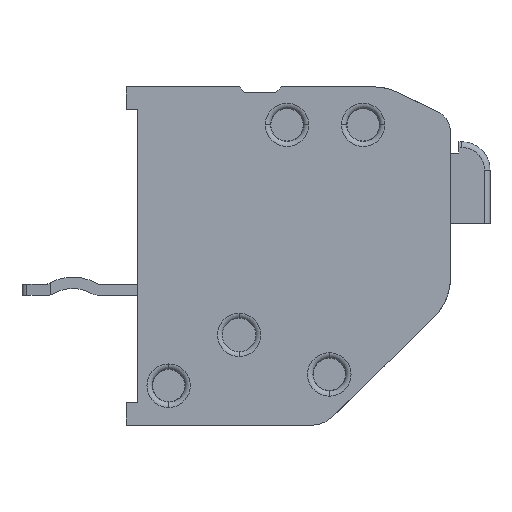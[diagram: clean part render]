
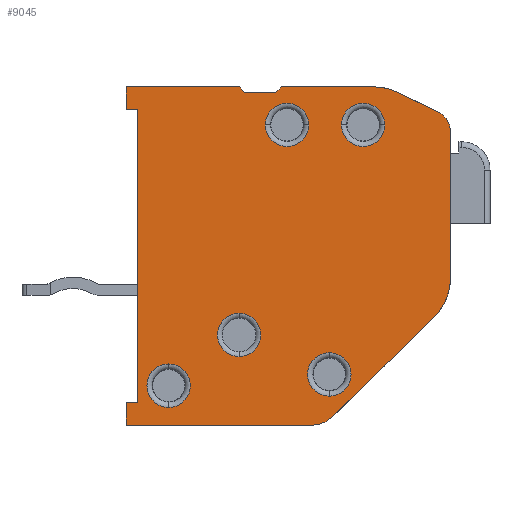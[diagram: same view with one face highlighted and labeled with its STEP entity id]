
A CAD part, front view. The second image highlights one B-rep face of the part: STEP entity #9045.
In plain terms, the highlighted planar face has unit normal (0, -1, 0).
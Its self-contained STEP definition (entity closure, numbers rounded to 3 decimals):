
#83=DIRECTION('',(0.,0.,-1.));
#84=VECTOR('',#83,5.154);
#85=CARTESIAN_POINT('',(11.5,0.,-1.604));
#86=LINE('',#85,#84);
#155=DIRECTION('',(1.,0.,0.));
#156=VECTOR('',#155,3.292);
#157=CARTESIAN_POINT('',(5.5,0.,0.));
#158=LINE('',#157,#156);
#171=DIRECTION('',(1.,0.,0.));
#172=VECTOR('',#171,1.1);
#173=CARTESIAN_POINT('',(4.2,0.,-0.2));
#174=LINE('',#173,#172);
#195=DIRECTION('',(1.,0.,0.));
#196=VECTOR('',#195,4.);
#197=CARTESIAN_POINT('',(0.,0.,0.));
#198=LINE('',#197,#196);
#359=DIRECTION('',(0.,0.,1.));
#360=VECTOR('',#359,10.4);
#361=CARTESIAN_POINT('',(0.4,0.,-11.2));
#362=LINE('',#361,#360);
#2117=DIRECTION('',(-1.,0.,0.));
#2118=VECTOR('',#2117,6.592);
#2119=CARTESIAN_POINT('',(6.592,0.,-12.));
#2120=LINE('',#2119,#2118);
#2142=DIRECTION('',(0.715,0.,0.699));
#2143=VECTOR('',#2142,5.044);
#2144=CARTESIAN_POINT('',(7.291,0.,-11.715));
#2145=LINE('',#2144,#2143);
#2146=CARTESIAN_POINT('',(6.592,0.,-11.));
#2147=DIRECTION('',(0.,-1.,0.));
#2148=DIRECTION('',(0.,0.,-1.));
#2149=AXIS2_PLACEMENT_3D('',#2146,#2147,#2148);
#2151=DIRECTION('',(-0.707,0.,0.707));
#2152=VECTOR('',#2151,0.283);
#2153=CARTESIAN_POINT('',(4.2,0.,-0.2));
#2154=LINE('',#2153,#2152);
#2155=DIRECTION('',(-0.707,0.,-0.707));
#2156=VECTOR('',#2155,0.283);
#2157=CARTESIAN_POINT('',(5.5,0.,0.));
#2158=LINE('',#2157,#2156);
#2159=CARTESIAN_POINT('',(8.792,0.,-1.8));
#2160=DIRECTION('',(0.,-1.,0.));
#2161=DIRECTION('',(0.431,0.,0.902));
#2162=AXIS2_PLACEMENT_3D('',#2159,#2160,#2161);
#2164=DIRECTION('',(-0.902,0.,0.431));
#2165=VECTOR('',#2164,1.637);
#2166=CARTESIAN_POINT('',(11.045,0.,-0.882));
#2167=LINE('',#2166,#2165);
#2168=CARTESIAN_POINT('',(10.7,0.,-1.604));
#2169=DIRECTION('',(0.,-1.,0.));
#2170=DIRECTION('',(1.,0.,0.));
#2171=AXIS2_PLACEMENT_3D('',#2168,#2169,#2170);
#2173=CARTESIAN_POINT('',(9.5,0.,-6.758));
#2174=DIRECTION('',(0.,-1.,0.));
#2175=DIRECTION('',(0.699,0.,-0.715));
#2176=AXIS2_PLACEMENT_3D('',#2173,#2174,#2175);
#2188=CARTESIAN_POINT('',(7.2,0.,-10.2));
#2189=DIRECTION('',(0.,1.,0.));
#2190=DIRECTION('',(0.,0.,-1.));
#2191=AXIS2_PLACEMENT_3D('',#2188,#2189,#2190);
#2211=CARTESIAN_POINT('',(7.2,0.,-10.2));
#2212=DIRECTION('',(0.,1.,0.));
#2213=DIRECTION('',(0.,0.,1.));
#2214=AXIS2_PLACEMENT_3D('',#2211,#2212,#2213);
#2231=CARTESIAN_POINT('',(1.5,0.,-10.6));
#2232=DIRECTION('',(0.,1.,0.));
#2233=DIRECTION('',(0.,0.,1.));
#2234=AXIS2_PLACEMENT_3D('',#2231,#2232,#2233);
#2254=CARTESIAN_POINT('',(1.5,0.,-10.6));
#2255=DIRECTION('',(0.,1.,0.));
#2256=DIRECTION('',(0.,0.,-1.));
#2257=AXIS2_PLACEMENT_3D('',#2254,#2255,#2256);
#2279=CARTESIAN_POINT('',(4.,0.,-8.8));
#2280=DIRECTION('',(0.,1.,0.));
#2281=DIRECTION('',(0.,0.,1.));
#2282=AXIS2_PLACEMENT_3D('',#2279,#2280,#2281);
#2294=CARTESIAN_POINT('',(4.,0.,-8.8));
#2295=DIRECTION('',(0.,1.,0.));
#2296=DIRECTION('',(0.,0.,-1.));
#2297=AXIS2_PLACEMENT_3D('',#2294,#2295,#2296);
#2319=CARTESIAN_POINT('',(5.7,0.,-1.35));
#2320=DIRECTION('',(0.,1.,0.));
#2321=DIRECTION('',(-1.,0.,0.));
#2322=AXIS2_PLACEMENT_3D('',#2319,#2320,#2321);
#2334=CARTESIAN_POINT('',(5.7,0.,-1.35));
#2335=DIRECTION('',(0.,1.,0.));
#2336=DIRECTION('',(1.,0.,0.));
#2337=AXIS2_PLACEMENT_3D('',#2334,#2335,#2336);
#2372=CARTESIAN_POINT('',(8.4,0.,-1.35));
#2373=DIRECTION('',(0.,1.,0.));
#2374=DIRECTION('',(-1.,0.,0.));
#2375=AXIS2_PLACEMENT_3D('',#2372,#2373,#2374);
#2387=CARTESIAN_POINT('',(8.4,0.,-1.35));
#2388=DIRECTION('',(0.,1.,0.));
#2389=DIRECTION('',(1.,0.,0.));
#2390=AXIS2_PLACEMENT_3D('',#2387,#2388,#2389);
#2440=DIRECTION('',(0.,0.,1.));
#2441=VECTOR('',#2440,0.8);
#2442=CARTESIAN_POINT('',(0.,0.,-12.));
#2443=LINE('',#2442,#2441);
#2452=DIRECTION('',(1.,0.,0.));
#2453=VECTOR('',#2452,0.4);
#2454=CARTESIAN_POINT('',(0.,0.,-11.2));
#2455=LINE('',#2454,#2453);
#2456=DIRECTION('',(-1.,0.,0.));
#2457=VECTOR('',#2456,0.4);
#2458=CARTESIAN_POINT('',(0.4,0.,-0.8));
#2459=LINE('',#2458,#2457);
#2476=DIRECTION('',(0.,0.,1.));
#2477=VECTOR('',#2476,0.8);
#2478=CARTESIAN_POINT('',(0.,0.,-0.8));
#2479=LINE('',#2478,#2477);
#4680=CARTESIAN_POINT('',(6.592,0.,-12.));
#4681=CARTESIAN_POINT('',(7.291,0.,-11.715));
#4682=VERTEX_POINT('',#4680);
#4683=VERTEX_POINT('',#4681);
#4684=CARTESIAN_POINT('',(0.,0.,-12.));
#4685=VERTEX_POINT('',#4684);
#4686=CARTESIAN_POINT('',(0.,0.,-11.2));
#4687=VERTEX_POINT('',#4686);
#4688=CARTESIAN_POINT('',(0.4,0.,-11.2));
#4689=VERTEX_POINT('',#4688);
#4690=CARTESIAN_POINT('',(0.4,0.,-0.8));
#4691=VERTEX_POINT('',#4690);
#4692=CARTESIAN_POINT('',(0.,0.,-0.8));
#4693=VERTEX_POINT('',#4692);
#4694=CARTESIAN_POINT('',(0.,0.,0.));
#4695=VERTEX_POINT('',#4694);
#4696=CARTESIAN_POINT('',(4.,0.,0.));
#4697=VERTEX_POINT('',#4696);
#4698=CARTESIAN_POINT('',(4.2,0.,-0.2));
#4699=VERTEX_POINT('',#4698);
#4700=CARTESIAN_POINT('',(5.3,0.,-0.2));
#4701=VERTEX_POINT('',#4700);
#4702=CARTESIAN_POINT('',(5.5,0.,0.));
#4703=VERTEX_POINT('',#4702);
#4704=CARTESIAN_POINT('',(8.792,0.,0.));
#4705=VERTEX_POINT('',#4704);
#4706=CARTESIAN_POINT('',(9.568,0.,-0.176));
#4707=VERTEX_POINT('',#4706);
#4708=CARTESIAN_POINT('',(11.045,0.,-0.882));
#4709=VERTEX_POINT('',#4708);
#4710=CARTESIAN_POINT('',(11.5,0.,-1.604));
#4711=VERTEX_POINT('',#4710);
#4712=CARTESIAN_POINT('',(11.5,0.,-6.758));
#4713=VERTEX_POINT('',#4712);
#4714=CARTESIAN_POINT('',(10.898,0.,-8.188));
#4715=VERTEX_POINT('',#4714);
#5560=CARTESIAN_POINT('',(7.2,0.,-10.97));
#5561=VERTEX_POINT('',#5560);
#5562=CARTESIAN_POINT('',(7.2,0.,-9.43));
#5563=VERTEX_POINT('',#5562);
#5564=CARTESIAN_POINT('',(1.5,0.,-11.37));
#5565=VERTEX_POINT('',#5564);
#5566=CARTESIAN_POINT('',(1.5,0.,-9.83));
#5567=VERTEX_POINT('',#5566);
#5568=CARTESIAN_POINT('',(4.93,0.,-1.35));
#5569=VERTEX_POINT('',#5568);
#5570=CARTESIAN_POINT('',(6.47,0.,-1.35));
#5571=VERTEX_POINT('',#5570);
#5572=CARTESIAN_POINT('',(9.17,0.,-1.35));
#5573=VERTEX_POINT('',#5572);
#5574=CARTESIAN_POINT('',(7.63,0.,-1.35));
#5575=VERTEX_POINT('',#5574);
#5580=CARTESIAN_POINT('',(4.,0.,-8.03));
#5581=CARTESIAN_POINT('',(4.,0.,-9.57));
#5582=VERTEX_POINT('',#5580);
#5583=VERTEX_POINT('',#5581);
#8981=CARTESIAN_POINT('',(5.95,0.,-6.));
#8982=DIRECTION('',(0.,1.,0.));
#8983=DIRECTION('',(1.,0.,0.));
#8984=AXIS2_PLACEMENT_3D('',#8981,#8982,#8983);
#8985=PLANE('',#8984);
#8987=ORIENTED_EDGE('',*,*,#8986,.F.);
#8988=ORIENTED_EDGE('',*,*,#8974,.F.);
#8989=ORIENTED_EDGE('',*,*,#8944,.T.);
#8991=ORIENTED_EDGE('',*,*,#8990,.T.);
#8993=ORIENTED_EDGE('',*,*,#8992,.T.);
#8994=ORIENTED_EDGE('',*,*,#6383,.T.);
#8996=ORIENTED_EDGE('',*,*,#8995,.T.);
#8998=ORIENTED_EDGE('',*,*,#8997,.T.);
#8999=ORIENTED_EDGE('',*,*,#6203,.T.);
#9000=ORIENTED_EDGE('',*,*,#6178,.F.);
#9001=ORIENTED_EDGE('',*,*,#6163,.T.);
#9002=ORIENTED_EDGE('',*,*,#6148,.F.);
#9003=ORIENTED_EDGE('',*,*,#6133,.T.);
#9005=ORIENTED_EDGE('',*,*,#9004,.F.);
#9007=ORIENTED_EDGE('',*,*,#9006,.F.);
#9009=ORIENTED_EDGE('',*,*,#9008,.F.);
#9010=ORIENTED_EDGE('',*,*,#5999,.T.);
#9012=ORIENTED_EDGE('',*,*,#9011,.F.);
#9013=EDGE_LOOP('',(#8987,#8988,#8989,#8991,#8993,#8994,#8996,#8998,#8999,#9000,
#9001,#9002,#9003,#9005,#9007,#9009,#9010,#9012));
#9014=FACE_OUTER_BOUND('',#9013,.F.);
#9016=ORIENTED_EDGE('',*,*,#9015,.F.);
#9018=ORIENTED_EDGE('',*,*,#9017,.F.);
#9019=EDGE_LOOP('',(#9016,#9018));
#9020=FACE_BOUND('',#9019,.F.);
#9022=ORIENTED_EDGE('',*,*,#9021,.F.);
#9024=ORIENTED_EDGE('',*,*,#9023,.F.);
#9025=EDGE_LOOP('',(#9022,#9024));
#9026=FACE_BOUND('',#9025,.F.);
#9028=ORIENTED_EDGE('',*,*,#9027,.F.);
#9030=ORIENTED_EDGE('',*,*,#9029,.F.);
#9031=EDGE_LOOP('',(#9028,#9030));
#9032=FACE_BOUND('',#9031,.F.);
#9034=ORIENTED_EDGE('',*,*,#9033,.F.);
#9036=ORIENTED_EDGE('',*,*,#9035,.F.);
#9037=EDGE_LOOP('',(#9034,#9036));
#9038=FACE_BOUND('',#9037,.F.);
#9040=ORIENTED_EDGE('',*,*,#9039,.F.);
#9042=ORIENTED_EDGE('',*,*,#9041,.F.);
#9043=EDGE_LOOP('',(#9040,#9042));
#9044=FACE_BOUND('',#9043,.F.);
#9045=ADVANCED_FACE('',(#9014,#9020,#9026,#9032,#9038,#9044),#8985,.F.);
#2150=CIRCLE('',#2149,1.);
#2163=CIRCLE('',#2162,1.8);
#2172=CIRCLE('',#2171,0.8);
#2177=CIRCLE('',#2176,2.);
#2192=CIRCLE('',#2191,0.77);
#2215=CIRCLE('',#2214,0.77);
#2235=CIRCLE('',#2234,0.77);
#2258=CIRCLE('',#2257,0.77);
#2283=CIRCLE('',#2282,0.77);
#2298=CIRCLE('',#2297,0.77);
#2323=CIRCLE('',#2322,0.77);
#2338=CIRCLE('',#2337,0.77);
#2376=CIRCLE('',#2375,0.77);
#2391=CIRCLE('',#2390,0.77);
#5999=EDGE_CURVE('',#4711,#4713,#86,.T.);
#6133=EDGE_CURVE('',#4703,#4705,#158,.T.);
#6148=EDGE_CURVE('',#4703,#4701,#2158,.T.);
#6163=EDGE_CURVE('',#4699,#4701,#174,.T.);
#6178=EDGE_CURVE('',#4699,#4697,#2154,.T.);
#6203=EDGE_CURVE('',#4695,#4697,#198,.T.);
#6383=EDGE_CURVE('',#4689,#4691,#362,.T.);
#8944=EDGE_CURVE('',#4682,#4685,#2120,.T.);
#8974=EDGE_CURVE('',#4682,#4683,#2150,.T.);
#8986=EDGE_CURVE('',#4683,#4715,#2145,.T.);
#8990=EDGE_CURVE('',#4685,#4687,#2443,.T.);
#8992=EDGE_CURVE('',#4687,#4689,#2455,.T.);
#8995=EDGE_CURVE('',#4691,#4693,#2459,.T.);
#8997=EDGE_CURVE('',#4693,#4695,#2479,.T.);
#9004=EDGE_CURVE('',#4707,#4705,#2163,.T.);
#9006=EDGE_CURVE('',#4709,#4707,#2167,.T.);
#9008=EDGE_CURVE('',#4711,#4709,#2172,.T.);
#9011=EDGE_CURVE('',#4715,#4713,#2177,.T.);
#9015=EDGE_CURVE('',#5567,#5565,#2235,.T.);
#9017=EDGE_CURVE('',#5565,#5567,#2258,.T.);
#9021=EDGE_CURVE('',#5582,#5583,#2283,.T.);
#9023=EDGE_CURVE('',#5583,#5582,#2298,.T.);
#9027=EDGE_CURVE('',#5569,#5571,#2323,.T.);
#9029=EDGE_CURVE('',#5571,#5569,#2338,.T.);
#9033=EDGE_CURVE('',#5575,#5573,#2376,.T.);
#9035=EDGE_CURVE('',#5573,#5575,#2391,.T.);
#9039=EDGE_CURVE('',#5561,#5563,#2192,.T.);
#9041=EDGE_CURVE('',#5563,#5561,#2215,.T.);
